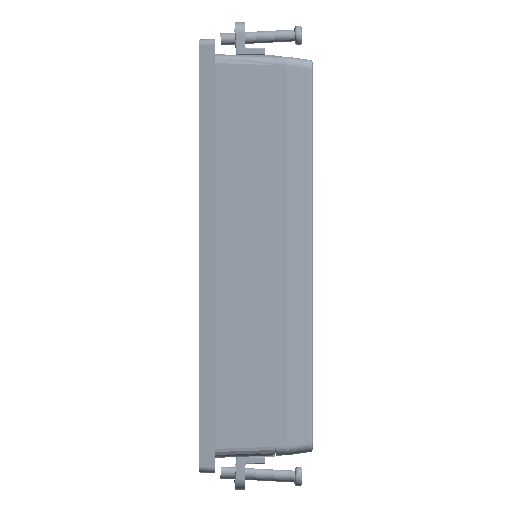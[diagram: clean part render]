
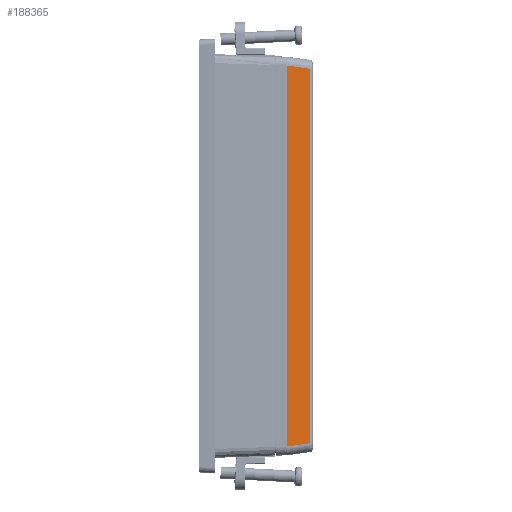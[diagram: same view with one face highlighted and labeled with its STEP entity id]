
A CAD part, left-side view. The second image highlights one B-rep face of the part: STEP entity #188365.
In plain terms, the highlighted free-form (B-spline) face has degree [1, 1] with [2, 2] control points.
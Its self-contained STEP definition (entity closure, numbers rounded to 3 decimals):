
#8191 = CARTESIAN_POINT ( 'NONE',  ( -94.208, -5.056, 64.21 ) ) ;
#17851 = VERTEX_POINT ( 'NONE', #225583 ) ;
#27115 = CARTESIAN_POINT ( 'NONE',  ( -94.208, -5.058, 64.237 ) ) ;
#31539 = CARTESIAN_POINT ( 'NONE',  ( -94.208, -5.056, -64.21 ) ) ;
#31620 = VECTOR ( 'NONE', #223919, 1000. ) ;
#36112 = ORIENTED_EDGE ( 'NONE', *, *, #151515, .F. ) ;
#65849 = CARTESIAN_POINT ( 'NONE',  ( -94.208, -5.057, 64.234 ) ) ;
#66950 = VERTEX_POINT ( 'NONE', #236652 ) ;
#69843 = CARTESIAN_POINT ( 'NONE',  ( -94.208, -5.058, 64.237 ) ) ;
#69910 = CARTESIAN_POINT ( 'NONE',  ( -94.208, -5.058, -64.237 ) ) ;
#72276 = EDGE_CURVE ( 'NONE', #79395, #173596, #168291, .T. ) ;
#77923 = FACE_OUTER_BOUND ( 'NONE', #169086, .T. ) ;
#79395 = VERTEX_POINT ( 'NONE', #27115 ) ;
#92407 = B_SPLINE_CURVE_WITH_KNOTS ( 'NONE', 1,
 ( #249528, #251270 ),
 .UNSPECIFIED., .F., .F.,
 ( 2, 2 ),
 ( 0., 1. ),
 .UNSPECIFIED. ) ;
#95931 = CARTESIAN_POINT ( 'NONE',  ( -94.208, -5.056, -64.21 ) ) ;
#101019 = ORIENTED_EDGE ( 'NONE', *, *, #72276, .T. ) ;
#104345 = ORIENTED_EDGE ( 'NONE', *, *, #204531, .F. ) ;
#115328 = LINE ( 'NONE', #95931, #31620 ) ;
#118864 = CARTESIAN_POINT ( 'NONE',  ( -93.086, -13.039, -63.116 ) ) ;
#137886 = VERTEX_POINT ( 'NONE', #210126 ) ;
#138132 = CARTESIAN_POINT ( 'NONE',  ( -94.208, -5.056, -64.213 ) ) ;
#144519 = B_SPLINE_CURVE_WITH_KNOTS ( 'NONE', 1,
 ( #69843, #181646 ),
 .UNSPECIFIED., .F., .F.,
 ( 2, 2 ),
 ( 0., 1. ),
 .UNSPECIFIED. ) ;
#151515 = EDGE_CURVE ( 'NONE', #66950, #169665, #285185, .T. ) ;
#154895 = CARTESIAN_POINT ( 'NONE',  ( -94.25, -4.758, 66.807 ) ) ;
#168291 = B_SPLINE_CURVE_WITH_KNOTS ( 'NONE', 3,
 ( #326642, #65849, #305558, #298604, #247903, #8191 ),
 .UNSPECIFIED., .F., .F.,
 ( 4, 1, 1, 4 ),
 ( 0., 0.333, 0.667, 1. ),
 .UNSPECIFIED. ) ;
#169086 = EDGE_LOOP ( 'NONE', ( #323605, #36112, #211265, #200575, #101019, #104345 ) ) ;
#169549 = CARTESIAN_POINT ( 'NONE',  ( -94.208, -5.057, -64.234 ) ) ;
#169665 = VERTEX_POINT ( 'NONE', #192358 ) ;
#170675 = CARTESIAN_POINT ( 'NONE',  ( -94.208, -5.056, 64.21 ) ) ;
#173596 = VERTEX_POINT ( 'NONE', #170675 ) ;
#176769 = EDGE_CURVE ( 'NONE', #66950, #17851, #92407, .T. ) ;
#181646 = CARTESIAN_POINT ( 'NONE',  ( -93.086, -13.039, 63.116 ) ) ;
#188365 = ADVANCED_FACE ( 'NONE', ( #77923 ), #296232, .F. ) ;
#192358 = CARTESIAN_POINT ( 'NONE',  ( -94.208, -5.058, -64.237 ) ) ;
#199325 = CARTESIAN_POINT ( 'NONE',  ( -94.208, -5.058, -64.237 ) ) ;
#200575 = ORIENTED_EDGE ( 'NONE', *, *, #268592, .F. ) ;
#204531 = EDGE_CURVE ( 'NONE', #137886, #173596, #115328, .T. ) ;
#210126 = CARTESIAN_POINT ( 'NONE',  ( -94.208, -5.056, -64.21 ) ) ;
#210982 = CARTESIAN_POINT ( 'NONE',  ( -94.25, -4.758, -66.807 ) ) ;
#211265 = ORIENTED_EDGE ( 'NONE', *, *, #176769, .T. ) ;
#223919 = DIRECTION ( 'NONE',  ( 0., 0., 1. ) ) ;
#225583 = CARTESIAN_POINT ( 'NONE',  ( -93.086, -13.039, 63.116 ) ) ;
#236652 = CARTESIAN_POINT ( 'NONE',  ( -93.086, -13.039, -63.116 ) ) ;
#240679 = CARTESIAN_POINT ( 'NONE',  ( -93.045, -13.338, 66.807 ) ) ;
#247903 = CARTESIAN_POINT ( 'NONE',  ( -94.208, -5.056, 64.213 ) ) ;
#249528 = CARTESIAN_POINT ( 'NONE',  ( -93.086, -13.039, -63.116 ) ) ;
#251270 = CARTESIAN_POINT ( 'NONE',  ( -93.086, -13.039, 63.116 ) ) ;
#253641 = CARTESIAN_POINT ( 'NONE',  ( -94.208, -5.057, -64.228 ) ) ;
#268592 = EDGE_CURVE ( 'NONE', #79395, #17851, #144519, .T. ) ;
#285185 = B_SPLINE_CURVE_WITH_KNOTS ( 'NONE', 1,
 ( #118864, #69910 ),
 .UNSPECIFIED., .F., .F.,
 ( 2, 2 ),
 ( 0., 1. ),
 .UNSPECIFIED. ) ;
#296232 = B_SPLINE_SURFACE_WITH_KNOTS ( 'NONE', 1, 1, ( 
 ( #154895, #210982 ),
 ( #240679, #345778 ) ),
 .UNSPECIFIED., .F., .F., .F.,
 ( 2, 2 ),
 ( 2, 2 ),
 ( -0.021, 8.643 ),
 ( 0., 133.614 ),
 .UNSPECIFIED. ) ;
#298604 = CARTESIAN_POINT ( 'NONE',  ( -94.208, -5.056, 64.219 ) ) ;
#302676 = CARTESIAN_POINT ( 'NONE',  ( -94.208, -5.056, -64.219 ) ) ;
#305558 = CARTESIAN_POINT ( 'NONE',  ( -94.208, -5.057, 64.228 ) ) ;
#308779 = EDGE_CURVE ( 'NONE', #137886, #169665, #323062, .T. ) ;
#323062 = B_SPLINE_CURVE_WITH_KNOTS ( 'NONE', 3,
 ( #31539, #138132, #302676, #253641, #169549, #199325 ),
 .UNSPECIFIED., .F., .F.,
 ( 4, 1, 1, 4 ),
 ( 0., 0.333, 0.667, 1. ),
 .UNSPECIFIED. ) ;
#323605 = ORIENTED_EDGE ( 'NONE', *, *, #308779, .T. ) ;
#326642 = CARTESIAN_POINT ( 'NONE',  ( -94.208, -5.058, 64.237 ) ) ;
#345778 = CARTESIAN_POINT ( 'NONE',  ( -93.045, -13.338, -66.807 ) ) ;
